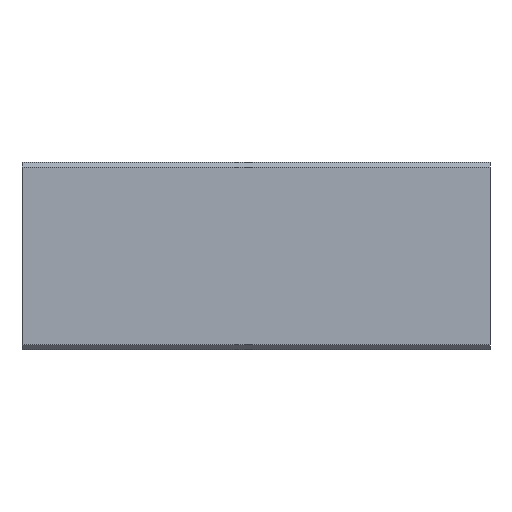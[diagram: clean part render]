
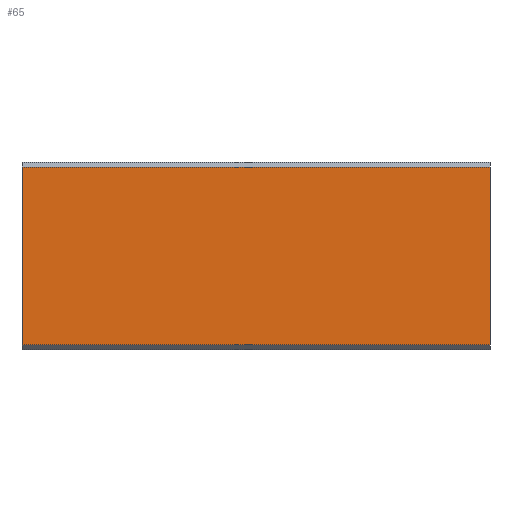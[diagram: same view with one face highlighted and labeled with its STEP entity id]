
A CAD part, top view. The second image highlights one B-rep face of the part: STEP entity #65.
In plain terms, the highlighted planar face has unit normal (0, 0, 1).
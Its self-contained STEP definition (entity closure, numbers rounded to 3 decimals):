
#60 = ORIENTED_EDGE ( 'NONE', *, *, #66, .T. ) ;
#62 = EDGE_CURVE ( 'NONE', #123, #97, #540, .T. ) ;
#64 = EDGE_CURVE ( 'NONE', #128, #67, #457, .T. ) ;
#65 = ADVANCED_FACE ( 'NONE', ( #488 ), #428, .F. ) ;
#66 = EDGE_CURVE ( 'NONE', #97, #67, #526, .T. ) ;
#67 = VERTEX_POINT ( 'NONE', #537 ) ;
#97 = VERTEX_POINT ( 'NONE', #513 ) ;
#119 = ORIENTED_EDGE ( 'NONE', *, *, #62, .T. ) ;
#121 = ORIENTED_EDGE ( 'NONE', *, *, #125, .F. ) ;
#123 = VERTEX_POINT ( 'NONE', #600 ) ;
#125 = EDGE_CURVE ( 'NONE', #123, #128, #605, .T. ) ;
#128 = VERTEX_POINT ( 'NONE', #612 ) ;
#130 = EDGE_LOOP ( 'NONE', ( #60, #131, #121, #119 ) ) ;
#131 = ORIENTED_EDGE ( 'NONE', *, *, #64, .F. ) ;
#428 = PLANE ( 'NONE',  #441 ) ;
#429 = DIRECTION ( 'NONE',  ( -1., 0., 0. ) ) ;
#430 = VECTOR ( 'NONE', #429, 1000. ) ;
#431 = CARTESIAN_POINT ( 'NONE',  ( 100., -19., 7. ) ) ;
#441 = AXIS2_PLACEMENT_3D ( 'NONE', #485, #496, #524 ) ;
#457 = LINE ( 'NONE', #431, #430 ) ;
#485 = CARTESIAN_POINT ( 'NONE',  ( 100., -19., 7. ) ) ;
#486 = DIRECTION ( 'NONE',  ( -1., 0., 0. ) ) ;
#487 = CARTESIAN_POINT ( 'NONE',  ( 100., 19., 7. ) ) ;
#488 = FACE_OUTER_BOUND ( 'NONE', #130, .T. ) ;
#496 = DIRECTION ( 'NONE',  ( 0., 0., -1. ) ) ;
#513 = CARTESIAN_POINT ( 'NONE',  ( 0., 19., 7. ) ) ;
#524 = DIRECTION ( 'NONE',  ( 0., 1., 0. ) ) ;
#525 = CARTESIAN_POINT ( 'NONE',  ( 0., -19., 7. ) ) ;
#526 = LINE ( 'NONE', #525, #534 ) ;
#528 = VECTOR ( 'NONE', #486, 1000. ) ;
#533 = DIRECTION ( 'NONE',  ( 0., -1., 0. ) ) ;
#534 = VECTOR ( 'NONE', #533, 1000. ) ;
#537 = CARTESIAN_POINT ( 'NONE',  ( 0., -19., 7. ) ) ;
#540 = LINE ( 'NONE', #487, #528 ) ;
#593 = DIRECTION ( 'NONE',  ( 0., -1., 0. ) ) ;
#594 = CARTESIAN_POINT ( 'NONE',  ( 100., -19., 7. ) ) ;
#600 = CARTESIAN_POINT ( 'NONE',  ( 100., 19., 7. ) ) ;
#605 = LINE ( 'NONE', #594, #613 ) ;
#612 = CARTESIAN_POINT ( 'NONE',  ( 100., -19., 7. ) ) ;
#613 = VECTOR ( 'NONE', #593, 1000. ) ;
